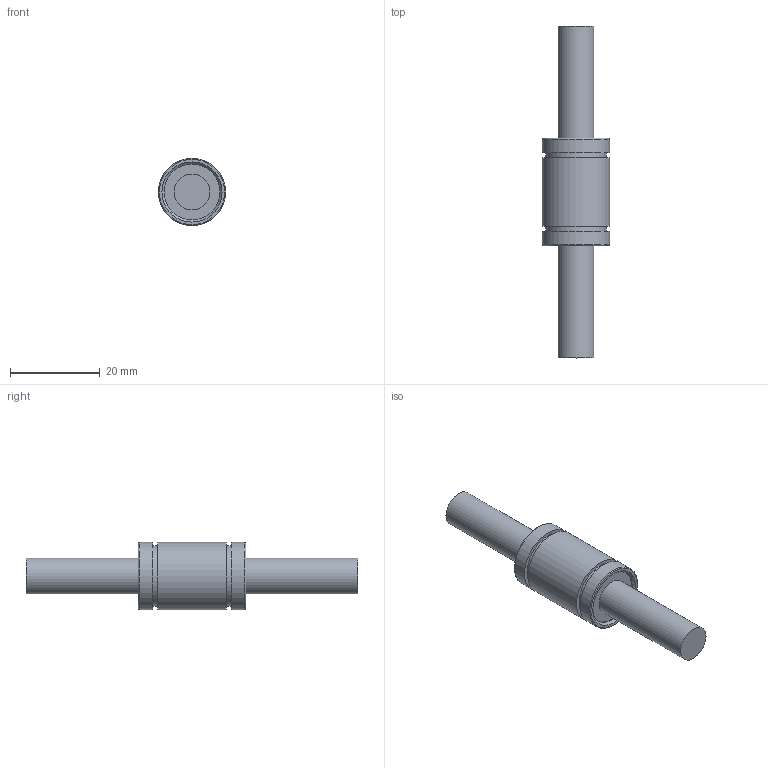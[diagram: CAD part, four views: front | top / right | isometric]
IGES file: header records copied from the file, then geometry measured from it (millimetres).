
Global section: file name: No Iges File Name specified; native system: Autodesk Inventor 2012; preprocessor: AutoDesk Inventor Iges Exporter R2012; author: user2; date: 20130206.095937; units: millimetre
Bounding box: 15 x 74 x 15 mm (x, y, z)
Volume: 6566.4 mm3; surface area: 2932.2 mm2
Topology: 1 solids, 1 shells, 23 faces, 37 edges, 24 vertices
Faces by surface type: plane 10, cylinder 7, revolution 4, torus 2
Full cylindrical faces by diameter (mm): 8 x2, 13.4 x2, 15 x3
